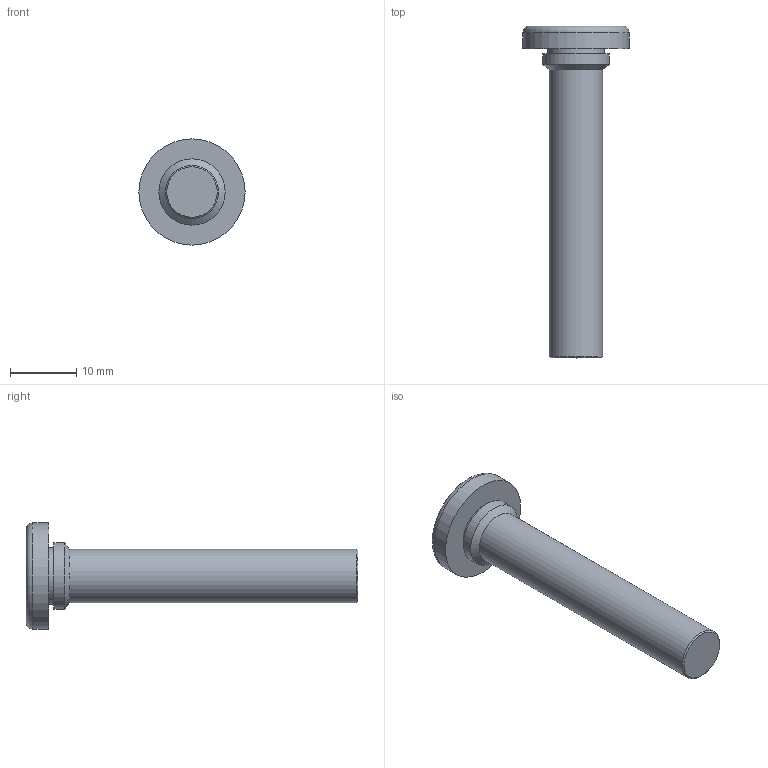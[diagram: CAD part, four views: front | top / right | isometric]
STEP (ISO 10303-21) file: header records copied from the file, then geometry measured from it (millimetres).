
FILE_DESCRIPTION(/* description */ (''),/* implementation_level */ '2;1');
FILE_NAME(/* name */ 'C:\Users\keval.kumar\Desktop\Fastit\Press Screw\M8\Press Screw_M8 x50.stp',/* time_stamp */ '2024-03-13T14:09:12+06:00',/* author */ ('keval.kumar'),/* organization */ (''),/* preprocessor_version */ 'ST-DEVELOPER v18.1',/* originating_system */ 'Autodesk Inventor 2022',/* authorisation */ '');
FILE_SCHEMA (('AUTOMOTIVE_DESIGN { 1 0 10303 214 3 1 1 }'));
Length unit declared in the file: millimetre
Products named in the file (1): Press Screw_M8 x50
Bounding box: 16 x 50 x 16 mm (x, y, z)
Volume: 3075.7 mm3; surface area: 1761.4 mm2
Topology: 1 solids, 1 shells, 11 faces, 19 edges, 12 vertices
Faces by surface type: cylinder 4, plane 4, cone 2, torus 1
Full cylindrical faces by diameter (mm): 8 x1, 8.5 x1, 10 x1, 16 x1
Entity records: 313 total; most frequent: DIRECTION 56, CARTESIAN_POINT 43, ORIENTED_EDGE 38, AXIS2_PLACEMENT_3D 25, EDGE_CURVE 19, EDGE_LOOP 13, CIRCLE 13, VERTEX_POINT 12
